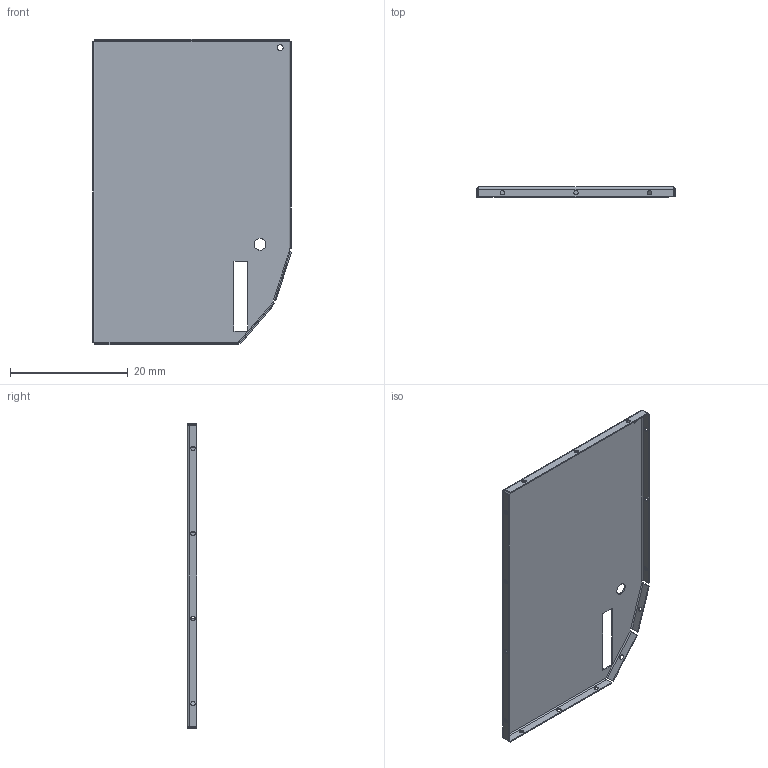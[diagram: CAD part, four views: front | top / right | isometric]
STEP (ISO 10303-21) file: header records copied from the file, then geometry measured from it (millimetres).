
FILE_DESCRIPTION((''),'2;1');
FILE_NAME('GTC01-A-MCS07-BB-COVER_PRT','2008-06-30T',('GRA'),(''),'PRO/ENGINEER BY PARAMETRIC TECHNOLOGY CORPORATION, 2006170','PRO/ENGINEER BY PARAMETRIC TECHNOLOGY CORPORATION, 2006170','');
FILE_SCHEMA(('CONFIG_CONTROL_DESIGN'));
Length unit declared in the file: millimetre
Products named in the file (1): GTC01-A-MCS07-BB-COVER_PRT
Bounding box: 33.72 x 1.65 x 51.85 mm (x, y, z)
Volume: 373.7 mm3; surface area: 3788 mm2
Topology: 1 solids, 1 shells, 110 faces, 276 edges, 168 vertices
Faces by surface type: plane 64, cylinder 46
Entity records: 3376 total; most frequent: DIRECTION 606, CARTESIAN_POINT 554, ORIENTED_EDGE 552, EDGE_CURVE 276, AXIS2_PLACEMENT_3D 220, VERTEX_POINT 168, VECTOR 166, LINE 166
